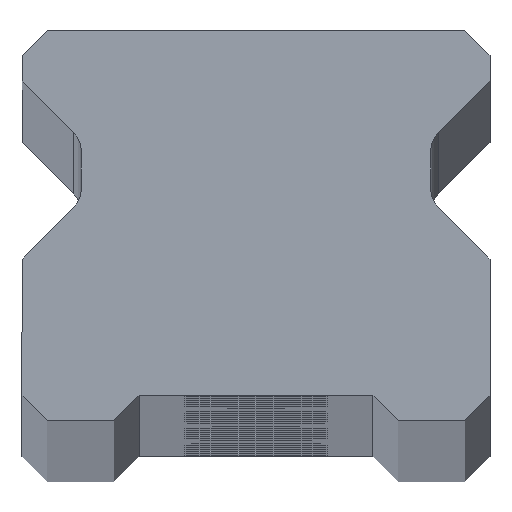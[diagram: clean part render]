
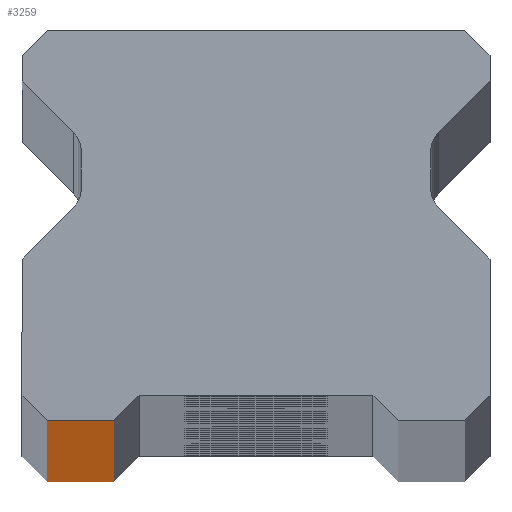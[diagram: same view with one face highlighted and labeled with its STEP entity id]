
A CAD part, top view. The second image highlights one B-rep face of the part: STEP entity #3259.
In plain terms, the highlighted planar face has unit normal (0, -1, 0).
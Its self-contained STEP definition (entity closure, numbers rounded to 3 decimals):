
#70 = DIRECTION ( 'NONE',  ( 0., 1., 0. ) ) ;
#99 = CARTESIAN_POINT ( 'NONE',  ( 11.5, 0., -860. ) ) ;
#156 = EDGE_CURVE ( 'NONE', #2001, #3390, #2513, .T. ) ;
#159 = CARTESIAN_POINT ( 'NONE',  ( -7., 0., 860. ) ) ;
#207 = VERTEX_POINT ( 'NONE', #1448 ) ;
#291 = CARTESIAN_POINT ( 'NONE',  ( -7., 0., -860. ) ) ;
#452 = ORIENTED_EDGE ( 'NONE', *, *, #2668, .T. ) ;
#553 = CARTESIAN_POINT ( 'NONE',  ( 11.5, 0., 860. ) ) ;
#560 = CARTESIAN_POINT ( 'NONE',  ( -7., 0., -860. ) ) ;
#684 = DIRECTION ( 'NONE',  ( 0., 0., 1. ) ) ;
#807 = VECTOR ( 'NONE', #2629, 1000. ) ;
#940 = DIRECTION ( 'NONE',  ( 1., 0., 0. ) ) ;
#1253 = EDGE_LOOP ( 'NONE', ( #1561, #3878, #2981, #452 ) ) ;
#1263 = EDGE_CURVE ( 'NONE', #1998, #3390, #1912, .T. ) ;
#1448 = CARTESIAN_POINT ( 'NONE',  ( -10.25, 0., -860. ) ) ;
#1537 = EDGE_CURVE ( 'NONE', #207, #1998, #5012, .T. ) ;
#1561 = ORIENTED_EDGE ( 'NONE', *, *, #1537, .T. ) ;
#1912 = LINE ( 'NONE', #291, #2049 ) ;
#1998 = VERTEX_POINT ( 'NONE', #560 ) ;
#2001 = VERTEX_POINT ( 'NONE', #3900 ) ;
#2030 = LINE ( 'NONE', #2508, #5186 ) ;
#2049 = VECTOR ( 'NONE', #684, 1000. ) ;
#2508 = CARTESIAN_POINT ( 'NONE',  ( -10.25, 0., 860. ) ) ;
#2513 = LINE ( 'NONE', #3857, #807 ) ;
#2629 = DIRECTION ( 'NONE',  ( 1., 0., 0. ) ) ;
#2668 = EDGE_CURVE ( 'NONE', #2001, #207, #2030, .T. ) ;
#2693 = VECTOR ( 'NONE', #940, 1000. ) ;
#2840 = DIRECTION ( 'NONE',  ( 0., 0., -1. ) ) ;
#2981 = ORIENTED_EDGE ( 'NONE', *, *, #156, .F. ) ;
#3259 = ADVANCED_FACE ( 'NONE', ( #4799 ), #4270, .F. ) ;
#3390 = VERTEX_POINT ( 'NONE', #159 ) ;
#3857 = CARTESIAN_POINT ( 'NONE',  ( 11.5, 0., 860. ) ) ;
#3867 = DIRECTION ( 'NONE',  ( -1., 0., 0. ) ) ;
#3878 = ORIENTED_EDGE ( 'NONE', *, *, #1263, .T. ) ;
#3900 = CARTESIAN_POINT ( 'NONE',  ( -10.25, 0., 860. ) ) ;
#4270 = PLANE ( 'NONE',  #5347 ) ;
#4799 = FACE_OUTER_BOUND ( 'NONE', #1253, .T. ) ;
#5012 = LINE ( 'NONE', #99, #2693 ) ;
#5186 = VECTOR ( 'NONE', #2840, 1000. ) ;
#5347 = AXIS2_PLACEMENT_3D ( 'NONE', #553, #70, #3867 ) ;
